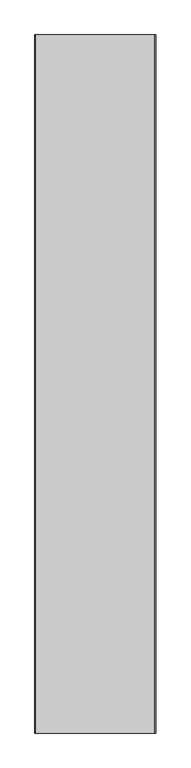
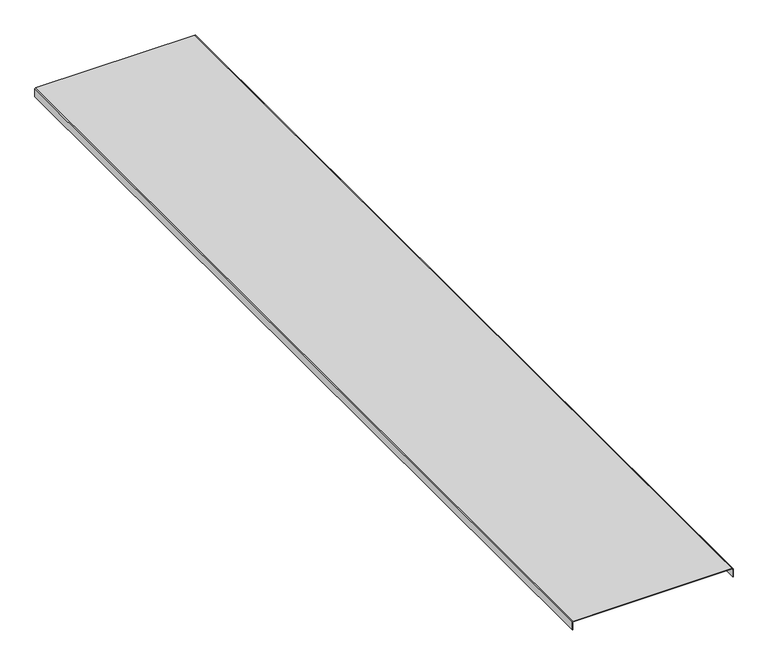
"""IFC4 building model written with IfcOpenShell, lengths in millimetres: proxy geometry, Cable_Tray_Cover_CT_Basorcanal : Basorcanal CT 100X300 (cover)."""

import ifcopenshell
import ifcopenshell.guid

model = None  # the IFC model being written
_history = None  # IfcOwnerHistory: only IFC2X3 demands one
_inside = {}  # id of a spatial element -> (the spatial element, [elements in it])
_under = {}  # id of a project, library or spatial element -> (it, [spatial elements below it])
_declared = {}  # id of a project -> (the project, [libraries it declares])
_typed = {}  # id of a type object -> (the type object, [elements of that type])
_made_of = {}  # id of a material, layer set ... -> (it, [elements and type objects made of it])


def new_model(schema):
    """Start an empty IFC model of exactly this schema.

    Asked for "IFC4X3", IfcOpenShell would pick the latest addendum, in which some entities
    have other attributes; the version numbers below select the first issue.
    IFC2X3 requires an IfcOwnerHistory on every rooted entity: one is made here for all.
    """
    global model, _history
    if schema == "IFC4X3":
        model = ifcopenshell.file(schema_version=(4, 3, 0, 0))
    else:
        model = ifcopenshell.file(schema=schema)
    _inside.clear()
    _under.clear()
    _declared.clear()
    _typed.clear()
    _made_of.clear()
    _history = None
    if model.schema == "IFC2X3":
        org = make("IfcOrganization", Name="unknown")
        user = make(
            "IfcPersonAndOrganization",
            ThePerson=make("IfcPerson", FamilyName="unknown"),
            TheOrganization=org,
        )
        app = make(
            "IfcApplication",
            ApplicationDeveloper=org,
            Version="unknown",
            ApplicationFullName="unknown",
            ApplicationIdentifier="unknown",
        )
        _history = make(
            "IfcOwnerHistory",
            OwningUser=user,
            OwningApplication=app,
            ChangeAction="ADDED",
            CreationDate=0,
        )
    return model


def make(cls, **values):
    """One entity of the class cls with the attributes given. An attribute that is None is left unset."""
    return model.create_entity(
        cls, **{name: value for name, value in values.items() if value is not None}
    )


def rooted(cls, **values):
    """An entity with a GlobalId (a new one), such as an element, a storey or a relation."""
    return make(cls, GlobalId=ifcopenshell.guid.new(), OwnerHistory=_history, **values)


def si_unit(unit_type, name, prefix=None):
    """IfcSIUnit, for example si_unit("LENGTHUNIT", "METRE", prefix="MILLI")."""
    return make("IfcSIUnit", UnitType=unit_type, Prefix=prefix, Name=name)


def assignment(units):
    """IfcUnitAssignment: the units of a project."""
    return None if units is None else make("IfcUnitAssignment", Units=units)


def point(xyz):
    """IfcCartesianPoint."""
    return None if xyz is None else make("IfcCartesianPoint", Coordinates=xyz)


def direction(xyz):
    """IfcDirection."""
    return None if xyz is None else make("IfcDirection", DirectionRatios=xyz)


def frame(location, z_axis=None, x_axis=None):
    """IfcAxis2Placement3D, a coordinate frame: its origin and axes. An axis left out is left unset."""
    return make(
        "IfcAxis2Placement3D",
        Location=point(location),
        Axis=direction(z_axis),
        RefDirection=direction(x_axis),
    )


def frame_2d(location, x_axis=None):
    """IfcAxis2Placement2D, a coordinate frame in the plane: its origin and x axis."""
    return make(
        "IfcAxis2Placement2D", Location=point(location), RefDirection=direction(x_axis)
    )


def origin():
    """The frame at (0, 0, 0) with its axes left unset."""
    return frame((0.0, 0.0, 0.0))


def place(relative_to, where):
    """IfcLocalPlacement: puts the frame where relative to a parent placement (None: the world)."""
    return make(
        "IfcLocalPlacement", PlacementRelTo=relative_to, RelativePlacement=where
    )


def context(
    kind, dimensions, precision=None, world=None, true_north=None, identifier=None
):
    """IfcGeometricRepresentationContext, for example the 3D "Model" context."""
    return make(
        "IfcGeometricRepresentationContext",
        ContextIdentifier=identifier,
        ContextType=kind,
        CoordinateSpaceDimension=dimensions,
        Precision=precision,
        WorldCoordinateSystem=world,
        TrueNorth=true_north,
    )


def project(units=None, contexts=None):
    """IfcProject with its units and contexts."""
    return rooted(
        "IfcProject",
        Name="project",
        RepresentationContexts=contexts,
        UnitsInContext=assignment(units),
    )


def spatial(cls, under=None, at=None, **own):
    """A site, building, storey or space (cls), placed at a placement, below another one or the project."""
    s = rooted(cls, ObjectPlacement=at, **own)
    if under is not None:
        _under.setdefault(under.id(), (under, []))[1].append(s)
    return s


def polyline(points):
    """IfcPolyline through the points."""
    return make("IfcPolyline", Points=[point(p) for p in points])


def circle_curve(where, radius):
    """IfcCircle in the frame where."""
    return make("IfcCircle", Position=where, Radius=radius)


def trimmed(basis, trim1, trim2, sense, master):
    """IfcTrimmedCurve: the piece of a basis curve between two trims."""
    return make(
        "IfcTrimmedCurve",
        BasisCurve=basis,
        Trim1=trim1,
        Trim2=trim2,
        SenseAgreement=sense,
        MasterRepresentation=master,
    )


def segment(curve, same_sense, transition):
    """IfcCompositeCurveSegment."""
    return make(
        "IfcCompositeCurveSegment",
        Transition=transition,
        SameSense=same_sense,
        ParentCurve=curve,
    )


def composite_curve(segments, self_intersect=None):
    """IfcCompositeCurve: segments joined end to end."""
    return make("IfcCompositeCurve", Segments=segments, SelfIntersect=self_intersect)


def outline(outer, holes=None, kind="AREA"):
    """IfcArbitraryClosedProfileDef: a profile drawn as a closed curve; with holes, ...WithVoids."""
    if holes is None:
        return make("IfcArbitraryClosedProfileDef", ProfileType=kind, OuterCurve=outer)
    return make(
        "IfcArbitraryProfileDefWithVoids",
        ProfileType=kind,
        OuterCurve=outer,
        InnerCurves=holes,
    )


def extrude(swept, where, along, depth):
    """IfcExtrudedAreaSolid: the profile swept, set in the frame where, extruded along a direction by depth."""
    return make(
        "IfcExtrudedAreaSolid",
        SweptArea=swept,
        Position=where,
        ExtrudedDirection=direction(along),
        Depth=depth,
    )


def shape(context_of_items, identifier, shape_type, items):
    """IfcShapeRepresentation: the items that make up one representation, for example the "Body"."""
    return make(
        "IfcShapeRepresentation",
        ContextOfItems=context_of_items,
        RepresentationIdentifier=identifier,
        RepresentationType=shape_type,
        Items=items,
    )


def source(mapping_origin, context_of_items, identifier, shape_type, items):
    """IfcRepresentationMap: a shape defined once, which mapped items show again and again."""
    return make(
        "IfcRepresentationMap",
        MappingOrigin=mapping_origin,
        MappedRepresentation=shape(context_of_items, identifier, shape_type, items),
    )


def transform(
    local_origin,
    x_axis=None,
    y_axis=None,
    z_axis=None,
    scale=None,
    scale2=None,
    scale3=None,
    uniform=True,
):
    """IfcCartesianTransformationOperator3D, or its non-uniform kind. x_axis, y_axis, z_axis: its Axis1, 2, 3."""
    if uniform:
        return make(
            "IfcCartesianTransformationOperator3D",
            Axis1=direction(x_axis),
            Axis2=direction(y_axis),
            LocalOrigin=point(local_origin),
            Scale=scale,
            Axis3=direction(z_axis),
        )
    return make(
        "IfcCartesianTransformationOperator3DnonUniform",
        Axis1=direction(x_axis),
        Axis2=direction(y_axis),
        LocalOrigin=point(local_origin),
        Scale=scale,
        Axis3=direction(z_axis),
        Scale2=scale2,
        Scale3=scale3,
    )


def mapped(mapping_source, mapping_target):
    """IfcMappedItem: shows the shape of a source again, moved by a transform."""
    return make(
        "IfcMappedItem", MappingSource=mapping_source, MappingTarget=mapping_target
    )


def made_of(thing, what):
    """Note that an element or type object is made of a material, layer set ...; save() writes the relation."""
    if what is not None:
        _made_of.setdefault(what.id(), (what, []))[1].append(thing)
    return thing


def element(
    cls,
    number,
    at=None,
    inside=None,
    cuts=None,
    type_object=None,
    material=None,
    context=None,
    identifier="Body",
    shape_type=None,
    held_by="IfcProductDefinitionShape",
    body=None,
    shapes=None,
    **own,
):
    """One element of the class cls, such as IfcWall. Its Tag is "e" and its number.

    at: its placement. inside: the storey or other place that contains it. cuts: it is an
    opening in that element (IfcRelVoidsElement). A single representation is given by context,
    identifier, shape_type and body (its items); several are given by shapes. held_by: the class
    of the entity that holds the representations. save() writes the other relations.
    """
    e = rooted(cls, Tag="e%d" % number, ObjectPlacement=at, **own)
    if body is not None:
        shapes = [shape(context, identifier, shape_type, body)]
    if shapes is not None:
        e.Representation = make(held_by, Representations=shapes)
    if inside is not None:
        _inside.setdefault(inside.id(), (inside, []))[1].append(e)
    if cuts is not None:
        rooted(
            "IfcRelVoidsElement", RelatingBuildingElement=cuts, RelatedOpeningElement=e
        )
    if type_object is not None:
        _typed.setdefault(type_object.id(), (type_object, []))[1].append(e)
    return made_of(e, material)


def aggregate(whole, parts):
    """IfcRelAggregates: a whole, such as a stair, and the parts it consists of."""
    return rooted("IfcRelAggregates", RelatingObject=whole, RelatedObjects=parts)


def save(model, path):
    """Write the relations noted so far, then the file.

    IfcRelAggregates (storeys below a building ...), IfcRelContainedInSpatialStructure (elements
    in a storey), IfcRelDefinesByType, IfcRelAssociatesMaterial and IfcRelDeclares: one each for
    every whole, place, type object, material and project.
    """
    for whole, parts in _under.values():
        aggregate(whole, parts)
    for where, things in _inside.values():
        rooted(
            "IfcRelContainedInSpatialStructure",
            RelatedElements=things,
            RelatingStructure=where,
        )
    for kind, things in _typed.values():
        rooted("IfcRelDefinesByType", RelatedObjects=things, RelatingType=kind)
    for what, things in _made_of.values():
        rooted("IfcRelAssociatesMaterial", RelatedObjects=things, RelatingMaterial=what)
    for by, libraries in _declared.values():
        rooted("IfcRelDeclares", RelatingContext=by, RelatedDefinitions=libraries)
    model.write(path)


def generic_models_def1f499(model_context):
    return source(origin(), model_context, "Body", "SweptSolid", [
        extrude(outline(composite_curve([segment(trimmed(circle_curve(frame_2d((-1.0, -149.0)), 1.0), [point((-1.0, -150.0))], [point((0.0, -149.0))], True, "CARTESIAN"), True, "CONTINUOUS"), segment(polyline([(0.0, -149.0), (0.0, 149.0)]), True, "CONTINUOUS"), segment(trimmed(circle_curve(frame_2d((-1.0, 149.0)), 1.0), [point((0.0, 149.0))], [point((-1.0, 150.0))], True, "CARTESIAN"), True, "CONTINUOUS"), segment(polyline([(-1.0, 150.0), (-16.0, 150.0), (-16.0, 151.0), (-1.0, 151.0)]), True, "CONTINUOUS"), segment(trimmed(circle_curve(frame_2d((-1.0, 149.0)), 2.0), [point((-1.0, 151.0))], [point((1.0, 149.0))], False, "CARTESIAN"), True, "CONTINUOUS"), segment(polyline([(1.0, 149.0), (1.0, -149.0)]), True, "CONTINUOUS"), segment(trimmed(circle_curve(frame_2d((-1.0, -149.0)), 2.0), [point((1.0, -149.0))], [point((-1.0, -151.0))], False, "CARTESIAN"), True, "CONTINUOUS"), segment(polyline([(-1.0, -151.0), (-16.0, -151.0), (-16.0, -150.0), (-1.0, -150.0)]), True, "CONTINUOUS")], self_intersect=False)), frame((0.0, 0.0, 0.0), z_axis=(0.0, 1.0, 0.0), x_axis=(0.0, 0.0, 1.0)), (0.0, 0.0, 1.0), 1746.0),
    ])


if __name__ == "__main__":
    model = new_model("IFC4")
    model_context = context("Model", 3, world=origin())
    ifc_project = project(units=[si_unit("LENGTHUNIT", "METRE", prefix="MILLI")], contexts=[model_context])
    site = spatial("IfcSite", under=ifc_project)
    building = spatial("IfcBuilding", under=site)
    placement = place(None, origin())
    generic_models_shape = generic_models_def1f499(model_context)
    element("IfcBuildingElementProxy", 1, Name="Cable_Tray_Cover_CT_Basorcanal : Basorcanal CT 100X300 (cover)", ObjectType="Cable_Tray_Cover_CT_Basorcanal : Basorcanal CT 100X300 (cover)", at=placement, inside=building, context=model_context, shape_type="MappedRepresentation", body=[
        mapped(generic_models_shape, transform((0.0, 0.0, 0.0), x_axis=(1.0, 0.0, 0.0), y_axis=(0.0, 1.0, 0.0), z_axis=(0.0, 0.0, 1.0))),
    ])
    save(model, "model.ifc")
